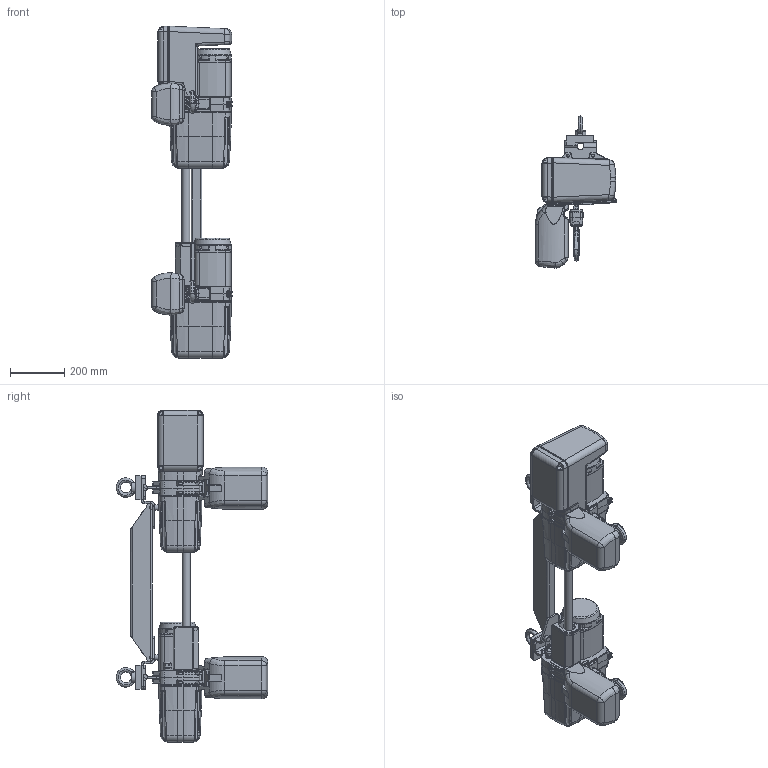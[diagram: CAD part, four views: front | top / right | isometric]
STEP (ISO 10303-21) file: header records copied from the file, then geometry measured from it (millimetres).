
FILE_DESCRIPTION(/* description */ (''),/* implementation_level */ '2;1');
FILE_NAME(/* name */ 'G:\Technik\3D-Dateien light_2015_10_02\Hebezeuge\Sonderausführungen\GP\9511.9209.L GPS500-1 0-2000.stp',/* time_stamp */ '2018-02-09T09:44:36+01:00',/* author */ ('gispen'),/* organization */ (''),/* preprocessor_version */ 'ST-DEVELOPER v15.6',/* originating_system */ 'Autodesk Inventor 2015',/* authorisation */ '');
FILE_SCHEMA (('AUTOMOTIVE_DESIGN { 1 0 10303 214 3 1 1 }'));
Products named in the file (1): 9511.9209.L
Bounding box: 298.83 x 560.12 x 1224.89 mm (x, y, z)
Volume: 39294651.1 mm3; surface area: 1802255.5 mm2
Topology: 8 solids, 9 shells, 3910 faces, 9869 edges, 5880 vertices
Faces by surface type: bspline 1164, cylinder 1051, plane 911, torus 466, cone 204, sphere 114
Full cylindrical faces by diameter (mm): 4.2 x2, 4.917 x2, 5 x4, 5.3 x1, 5.5 x4, 6 x4, 7.5 x4, 8 x6, 8.5 x8, 10.5 x12, 15 x2, 20 x4, 22.5 x1, 28 x2, 30 x1, 43.5 x1
Entity records: 201529 total; most frequent: CARTESIAN_POINT 113895, ORIENTED_EDGE 19254, DIRECTION 17496, EDGE_CURVE 9626, AXIS2_PLACEMENT_3D 7179, VERTEX_POINT 5848, EDGE_LOOP 4125, FACE_OUTER_BOUND 3910
